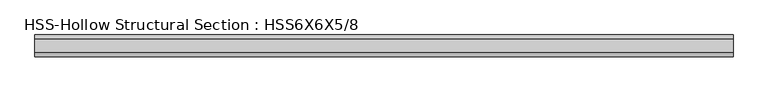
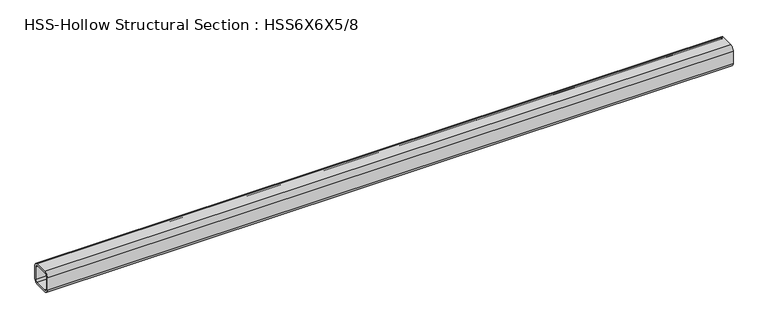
"""IFC4 building model written with IfcOpenShell, lengths in millimetres: beam geometry, HSS-Hollow Structural Section : HSS6X6X5/8."""

from ifc_helpers import new_model, si_unit, point, frame, frame_2d, origin, place, context, project, spatial, polyline, circle_curve, trimmed, segment, composite_curve, outline, extrude, source, transform, mapped, element, save


def hss_hollow_structural_section_hss6x6x5_8_c805d7ea(model_context):
    return source(origin(), model_context, "Body", "SweptSolid", [
        extrude(outline(composite_curve([segment(trimmed(circle_curve(frame_2d((-46.6852, 46.6852)), 29.5148), [point((-76.2, 46.6852))], [point((-46.6852, 76.2))], False, "CARTESIAN"), True, "CONTINUOUS"), segment(polyline([(-46.6852, 76.2), (46.6852, 76.2)]), True, "CONTINUOUS"), segment(trimmed(circle_curve(frame_2d((46.6852, 46.6852)), 29.5148), [point((46.6852, 76.2))], [point((76.2, 46.6852))], False, "CARTESIAN"), True, "CONTINUOUS"), segment(polyline([(76.2, 46.6852), (76.2, -46.6852)]), True, "CONTINUOUS"), segment(trimmed(circle_curve(frame_2d((46.6852, -46.6852)), 29.5148), [point((76.2, -46.6852))], [point((46.6852, -76.2))], False, "CARTESIAN"), True, "CONTINUOUS"), segment(polyline([(46.6852, -76.2), (-46.6852, -76.2)]), True, "CONTINUOUS"), segment(trimmed(circle_curve(frame_2d((-46.6852, -46.6852)), 29.5148), [point((-46.6852, -76.2))], [point((-76.2, -46.6852))], False, "CARTESIAN"), True, "CONTINUOUS"), segment(polyline([(-76.2, -46.6852), (-76.2, 46.6852)]), True, "CONTINUOUS")], self_intersect=False), holes=[composite_curve([segment(polyline([(46.6852, 61.4426), (-46.6852, 61.4426)]), True, "CONTINUOUS"), segment(trimmed(circle_curve(frame_2d((-46.6852, 46.6852)), 14.7574), [point((-46.6852, 61.4426))], [point((-61.4426, 46.6852))], True, "CARTESIAN"), True, "CONTINUOUS"), segment(polyline([(-61.4426, 46.6852), (-61.4426, -46.6852)]), True, "CONTINUOUS"), segment(trimmed(circle_curve(frame_2d((-46.6852, -46.6852)), 14.7574), [point((-61.4426, -46.6852))], [point((-46.6852, -61.4426))], True, "CARTESIAN"), True, "CONTINUOUS"), segment(polyline([(-46.6852, -61.4426), (46.6852, -61.4426)]), True, "CONTINUOUS"), segment(trimmed(circle_curve(frame_2d((46.6852, -46.6852)), 14.7574), [point((46.6852, -61.4426))], [point((61.4426, -46.6852))], True, "CARTESIAN"), True, "CONTINUOUS"), segment(polyline([(61.4426, -46.6852), (61.4426, 46.6852)]), True, "CONTINUOUS"), segment(trimmed(circle_curve(frame_2d((46.6852, 46.6852)), 14.7574), [point((61.4426, 46.6852))], [point((46.6852, 61.4426))], True, "CARTESIAN"), True, "CONTINUOUS")], self_intersect=False)]), frame((-2437.60625, 0.0, 0.0), z_axis=(1.0, 0.0, 0.0), x_axis=(0.0, 1.0, 0.0)), (0.0, 0.0, 1.0), 4875.2125),
    ])


if __name__ == "__main__":
    model = new_model("IFC4")
    model_context = context("Model", 3, world=origin())
    ifc_project = project(units=[si_unit("LENGTHUNIT", "METRE", prefix="MILLI")], contexts=[model_context])
    site = spatial("IfcSite", under=ifc_project)
    building = spatial("IfcBuilding", under=site)
    placement = place(None, origin())
    hss_hollow_structural_section_hss6x6x5_8_shape = hss_hollow_structural_section_hss6x6x5_8_c805d7ea(model_context)
    element("IfcBeam", 1, ObjectType="HSS-Hollow Structural Section : HSS6X6X5/8", at=placement, inside=building, context=model_context, shape_type="MappedRepresentation", body=[
        mapped(hss_hollow_structural_section_hss6x6x5_8_shape, transform((0.0, 0.0, 0.0), x_axis=(1.0, 0.0, 0.0), y_axis=(0.0, 1.0, 0.0), z_axis=(0.0, 0.0, 1.0))),
    ])
    save(model, "model.ifc")
